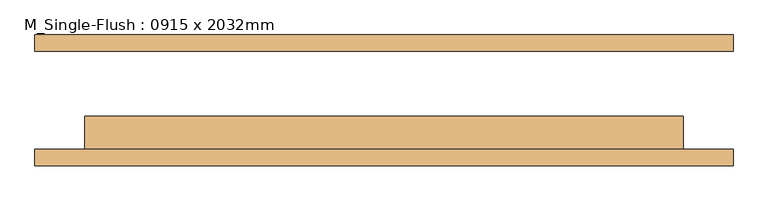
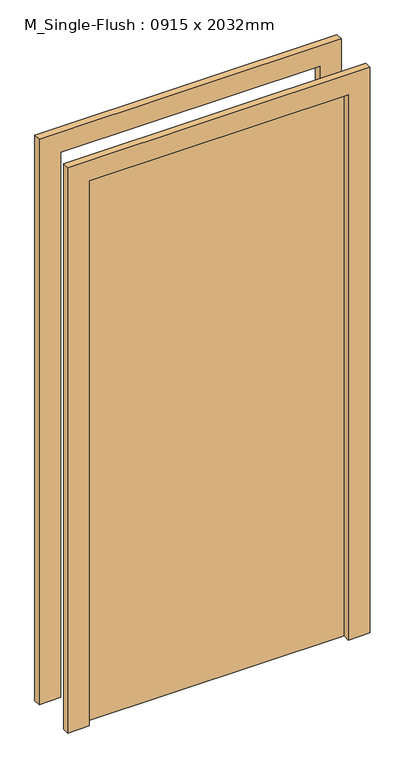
"""IFC4 building model written with IfcOpenShell, lengths in millimetres: door geometry, M_Single-Flush : 0915 x 2032mm."""

from ifc_helpers import new_model, si_unit, frame, origin, origin_with_axes, place, context, project, spatial, polyline, outline, extrude, source, transform, mapped, element, save


def m_single_flush_0915_x_2032mm_11c03dd0(model_context):
    return source(origin(), model_context, "Body", "SweptSolid", [
        extrude(outline(polyline([(2108.0, -533.5), (0.0, -533.5), (0.0, -457.5), (2032.0, -457.5), (2032.0, 457.5), (0.0, 457.5), (0.0, 533.5), (2108.0, 533.5), (2108.0, -533.5)])), frame((0.0, -100.0, 0.0), z_axis=(0.0, 1.0, 0.0), x_axis=(0.0, 0.0, 1.0)), (0.0, 0.0, 1.0), 25.0),
        extrude(outline(polyline([(2108.0, 533.5), (2108.0, -533.5), (0.0, -533.5), (0.0, -457.5), (2032.0, -457.5), (2032.0, 457.5), (0.0, 457.5), (0.0, 533.5), (2108.0, 533.5)])), frame((0.0, 75.0, 0.0), z_axis=(0.0, 1.0, 0.0), x_axis=(0.0, 0.0, 1.0)), (0.0, 0.0, 1.0), 25.0),
        extrude(outline(polyline([(457.5, -24.0), (457.5, -75.0), (-457.5, -75.0), (-457.5, -24.0), (457.5, -24.0)])), origin_with_axes(), (0.0, 0.0, 1.0), 2032.0),
    ])


if __name__ == "__main__":
    model = new_model("IFC4")
    model_context = context("Model", 3, world=origin())
    ifc_project = project(units=[si_unit("LENGTHUNIT", "METRE", prefix="MILLI")], contexts=[model_context])
    site = spatial("IfcSite", under=ifc_project)
    building = spatial("IfcBuilding", under=site)
    placement = place(None, origin())
    m_single_flush_0915_x_2032mm_shape = m_single_flush_0915_x_2032mm_11c03dd0(model_context)
    element("IfcDoor", 1, ObjectType="M_Single-Flush : 0915 x 2032mm", at=placement, inside=building, context=model_context, shape_type="MappedRepresentation", body=[
        mapped(m_single_flush_0915_x_2032mm_shape, transform((0.0, 0.0, 0.0), x_axis=(1.0, 0.0, 0.0), y_axis=(0.0, 1.0, 0.0), z_axis=(0.0, 0.0, 1.0))),
    ])
    save(model, "model.ifc")
